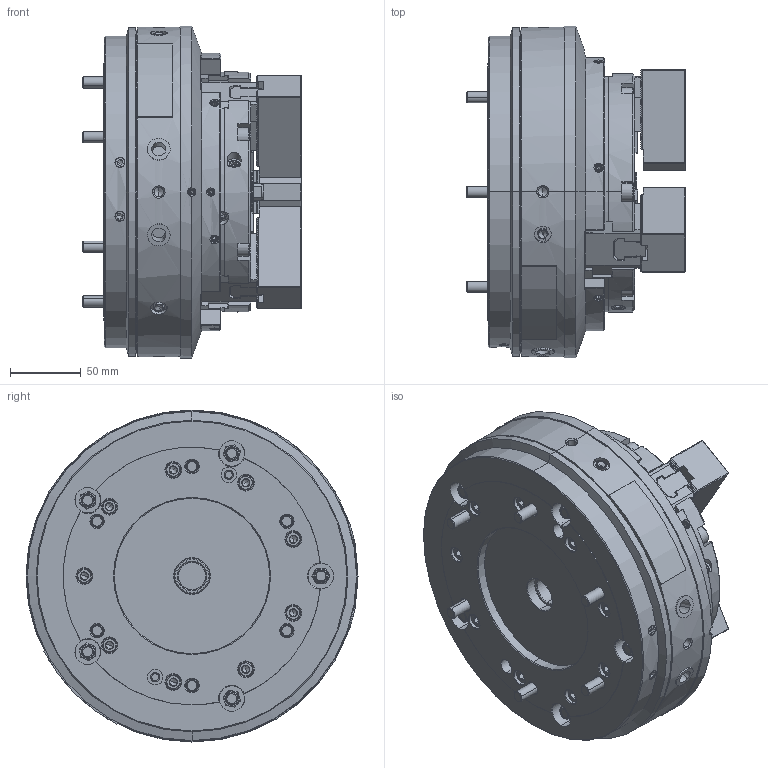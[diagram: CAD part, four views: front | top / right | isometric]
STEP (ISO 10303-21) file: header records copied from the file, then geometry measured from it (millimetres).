
FILE_DESCRIPTION (( 'STEP AP214' ), '1' );
FILE_NAME ('DEV-NRC06-HOL.STEP', '2024-10-03T04:47:25', ( '' ), ( '' ), 'SwSTEP 2.0', 'SolidWorks 2022', '' );
FILE_SCHEMA (( 'AUTOMOTIVE_DESIGN' ));
Length unit declared in the file: millimetre
Products named in the file (9): DEV-NRC06-HOL; Copy of 0263001600^DEV-NRC06-クミタテ_円筒用; Part1^DEV-NRC06-クミタテ; Copy of 0030110030^DEV-NRC06-クミタテ; Copy of 61P302540^DEV-NRC06-クミタテ; Copy of 61P400822^DEV-NRC06-クミタテ; Copy of 61P413209^DEV-NRC06-クミタテ; Copy of 0693000002^DEV-NRC06-クミタテ; Copy of 0030108110^DEV-NRC06-クミタテ
Assembly tree (23 placements, depth 2):
  DEV-NRC06-HOL
    Copy of 61P302540^DEV-NRC06-クミタテ  x3
    Copy of 61P400822^DEV-NRC06-クミタテ  x3
    Copy of 61P413209^DEV-NRC06-クミタテ
    Copy of 0030108110^DEV-NRC06-クミタテ  x6
    Copy of 0030110030^DEV-NRC06-クミタテ  x6
    Copy of 0263001600^DEV-NRC06-クミタテ_円筒用
    Copy of 0693000002^DEV-NRC06-クミタテ  x2
    Part1^DEV-NRC06-クミタテ
Bounding box: 155 x 235 x 235 mm (x, y, z)
Volume: 3747600 mm3; surface area: 322521.4 mm2
Topology: 23 solids, 60 shells, 4629 faces, 12597 edges, 8153 vertices
Faces by surface type: plane 2680, cylinder 1053, cone 730, bspline 131, torus 27, sphere 8
Entity records: 119459 total; most frequent: CARTESIAN_POINT 34142, ORIENTED_EDGE 18632, DIRECTION 16065, EDGE_CURVE 9316, LINE 6125, VECTOR 6125, VERTEX_POINT 6050, AXIS2_PLACEMENT_3D 4970
